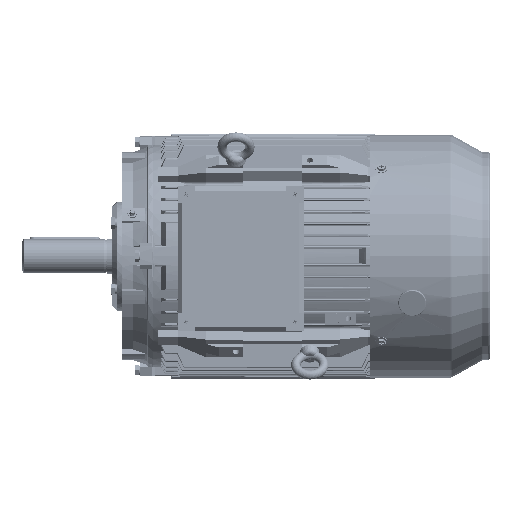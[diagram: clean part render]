
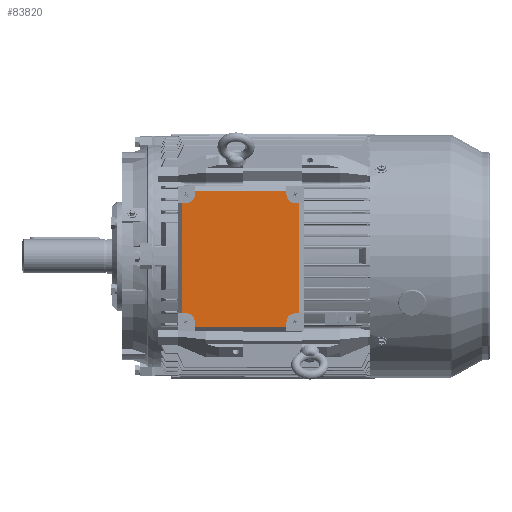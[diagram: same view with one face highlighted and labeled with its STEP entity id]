
A CAD part, top view. The second image highlights one B-rep face of the part: STEP entity #83820.
In plain terms, the highlighted planar face has unit normal (0, 0, 1).
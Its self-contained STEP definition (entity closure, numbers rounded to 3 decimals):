
#83493 = VERTEX_POINT ( 'NONE', #187912 ) ;
#83495 = ORIENTED_EDGE ( 'NONE', *, *, #83637, .F. ) ;
#83575 = EDGE_CURVE ( 'NONE', #83585, #83582, #187960, .T. ) ;
#83577 = VERTEX_POINT ( 'NONE', #188022 ) ;
#83579 = ORIENTED_EDGE ( 'NONE', *, *, #83580, .F. ) ;
#83580 = EDGE_CURVE ( 'NONE', #83577, #83601, #188021, .T. ) ;
#83582 = VERTEX_POINT ( 'NONE', #188017 ) ;
#83583 = EDGE_CURVE ( 'NONE', #83612, #83582, #188016, .T. ) ;
#83585 = VERTEX_POINT ( 'NONE', #188012 ) ;
#83587 = EDGE_CURVE ( 'NONE', #83601, #83585, #188011, .T. ) ;
#83591 = ORIENTED_EDGE ( 'NONE', *, *, #83602, .T. ) ;
#83592 = VERTEX_POINT ( 'NONE', #188006 ) ;
#83593 = ORIENTED_EDGE ( 'NONE', *, *, #83583, .T. ) ;
#83594 = ORIENTED_EDGE ( 'NONE', *, *, #83575, .F. ) ;
#83599 = ORIENTED_EDGE ( 'NONE', *, *, #83587, .F. ) ;
#83601 = VERTEX_POINT ( 'NONE', #188004 ) ;
#83602 = EDGE_CURVE ( 'NONE', #83577, #83592, #188003, .T. ) ;
#83603 = ORIENTED_EDGE ( 'NONE', *, *, #83605, .F. ) ;
#83605 = EDGE_CURVE ( 'NONE', #83612, #83610, #187999, .T. ) ;
#83607 = EDGE_CURVE ( 'NONE', #83610, #83623, #187994, .T. ) ;
#83610 = VERTEX_POINT ( 'NONE', #187748 ) ;
#83612 = VERTEX_POINT ( 'NONE', #187750 ) ;
#83616 = ORIENTED_EDGE ( 'NONE', *, *, #83620, .F. ) ;
#83620 = EDGE_CURVE ( 'NONE', #83623, #83629, #188049, .T. ) ;
#83623 = VERTEX_POINT ( 'NONE', #188045 ) ;
#83626 = ORIENTED_EDGE ( 'NONE', *, *, #83627, .T. ) ;
#83627 = EDGE_CURVE ( 'NONE', #83633, #83629, #188040, .T. ) ;
#83629 = VERTEX_POINT ( 'NONE', #188036 ) ;
#83631 = EDGE_CURVE ( 'NONE', #83633, #83493, #188035, .T. ) ;
#83633 = VERTEX_POINT ( 'NONE', #188031 ) ;
#83634 = ORIENTED_EDGE ( 'NONE', *, *, #83631, .F. ) ;
#83635 = ORIENTED_EDGE ( 'NONE', *, *, #83607, .F. ) ;
#83637 = EDGE_CURVE ( 'NONE', #83493, #83814, #188028, .T. ) ;
#83699 = ORIENTED_EDGE ( 'NONE', *, *, #83701, .F. ) ;
#83701 = EDGE_CURVE ( 'NONE', #83703, #83592, #188092, .T. ) ;
#83703 = VERTEX_POINT ( 'NONE', #188088 ) ;
#83769 = ORIENTED_EDGE ( 'NONE', *, *, #83770, .F. ) ;
#83770 = EDGE_CURVE ( 'NONE', #83823, #83703, #188149, .T. ) ;
#83798 = EDGE_CURVE ( 'NONE', #83801, #83811, #188182, .T. ) ;
#83800 = EDGE_CURVE ( 'NONE', #83801, #83823, #188183, .T. ) ;
#83801 = VERTEX_POINT ( 'NONE', #188242 ) ;
#83803 = ORIENTED_EDGE ( 'NONE', *, *, #83800, .F. ) ;
#83804 = ORIENTED_EDGE ( 'NONE', *, *, #83806, .F. ) ;
#83806 = EDGE_CURVE ( 'NONE', #83814, #83811, #188241, .T. ) ;
#83809 = ORIENTED_EDGE ( 'NONE', *, *, #83798, .T. ) ;
#83811 = VERTEX_POINT ( 'NONE', #188237 ) ;
#83814 = VERTEX_POINT ( 'NONE', #188236 ) ;
#83817 = EDGE_LOOP ( 'NONE', ( #83803, #83809, #83804, #83495, #83634, #83626, #83616, #83635, #83603, #83593, #83594, #83599, #83579, #83591, #83699, #83769 ) ) ;
#83820 = ADVANCED_FACE ( 'NONE', ( #188235 ), #188234, .T. ) ;
#83823 = VERTEX_POINT ( 'NONE', #188225 ) ;
#186953 = DIRECTION ( 'NONE',  ( -1., 0., 0. ) ) ;
#187748 = CARTESIAN_POINT ( 'NONE',  ( -71.5, -70., 12. ) ) ;
#187750 = CARTESIAN_POINT ( 'NONE',  ( -71.5, -75., 12. ) ) ;
#187912 = CARTESIAN_POINT ( 'NONE',  ( -82.5, 59., 12. ) ) ;
#187958 = VECTOR ( 'NONE', #188023, 1000. ) ;
#187959 = CARTESIAN_POINT ( 'NONE',  ( 70.5, -81., 12. ) ) ;
#187960 = LINE ( 'NONE', #187959, #187958 ) ;
#187991 = DIRECTION ( 'NONE',  ( 0., 0., 1. ) ) ;
#187992 = CARTESIAN_POINT ( 'NONE',  ( -82.5, -70., 12. ) ) ;
#187993 = AXIS2_PLACEMENT_3D ( 'NONE', #187992, #187991, #186953 ) ;
#187994 = CIRCLE ( 'NONE', #187993, 11. ) ;
#187996 = DIRECTION ( 'NONE',  ( 0., 1., 0. ) ) ;
#187997 = VECTOR ( 'NONE', #187996, 1000. ) ;
#187998 = CARTESIAN_POINT ( 'NONE',  ( -71.5, -81., 12. ) ) ;
#187999 = LINE ( 'NONE', #187998, #187997 ) ;
#188000 = DIRECTION ( 'NONE',  ( 0., 1., 0. ) ) ;
#188001 = VECTOR ( 'NONE', #188000, 1000. ) ;
#188002 = CARTESIAN_POINT ( 'NONE',  ( 87.5, 59., 12. ) ) ;
#188003 = LINE ( 'NONE', #188002, #188001 ) ;
#188004 = CARTESIAN_POINT ( 'NONE',  ( 81.5, -59., 12. ) ) ;
#188006 = CARTESIAN_POINT ( 'NONE',  ( 87.5, 59., 12. ) ) ;
#188007 = DIRECTION ( 'NONE',  ( 1., 0., 0. ) ) ;
#188008 = DIRECTION ( 'NONE',  ( 0., 0., 1. ) ) ;
#188009 = CARTESIAN_POINT ( 'NONE',  ( 81.5, -70., 12. ) ) ;
#188010 = AXIS2_PLACEMENT_3D ( 'NONE', #188009, #188008, #188007 ) ;
#188011 = CIRCLE ( 'NONE', #188010, 11. ) ;
#188012 = CARTESIAN_POINT ( 'NONE',  ( 70.5, -70., 12. ) ) ;
#188013 = DIRECTION ( 'NONE',  ( 1., 0., 0. ) ) ;
#188014 = VECTOR ( 'NONE', #188013, 1000. ) ;
#188015 = CARTESIAN_POINT ( 'NONE',  ( 70.5, -75., 12. ) ) ;
#188016 = LINE ( 'NONE', #188015, #188014 ) ;
#188017 = CARTESIAN_POINT ( 'NONE',  ( 70.5, -75., 12. ) ) ;
#188018 = DIRECTION ( 'NONE',  ( -1., 0., 0. ) ) ;
#188019 = VECTOR ( 'NONE', #188018, 1000. ) ;
#188020 = CARTESIAN_POINT ( 'NONE',  ( 93.5, -59., 12. ) ) ;
#188021 = LINE ( 'NONE', #188020, #188019 ) ;
#188022 = CARTESIAN_POINT ( 'NONE',  ( 87.5, -59., 12. ) ) ;
#188023 = DIRECTION ( 'NONE',  ( 0., -1., 0. ) ) ;
#188024 = DIRECTION ( 'NONE',  ( 1., 0., 0. ) ) ;
#188025 = DIRECTION ( 'NONE',  ( 0., 0., 1. ) ) ;
#188026 = CARTESIAN_POINT ( 'NONE',  ( -82.5, 70., 12. ) ) ;
#188027 = AXIS2_PLACEMENT_3D ( 'NONE', #188026, #188025, #188024 ) ;
#188028 = CIRCLE ( 'NONE', #188027, 11. ) ;
#188031 = CARTESIAN_POINT ( 'NONE',  ( -87.5, 59., 12. ) ) ;
#188032 = DIRECTION ( 'NONE',  ( 1., 0., 0. ) ) ;
#188033 = VECTOR ( 'NONE', #188032, 1000. ) ;
#188034 = CARTESIAN_POINT ( 'NONE',  ( -93.5, 59., 12. ) ) ;
#188035 = LINE ( 'NONE', #188034, #188033 ) ;
#188036 = CARTESIAN_POINT ( 'NONE',  ( -87.5, -59., 12. ) ) ;
#188037 = DIRECTION ( 'NONE',  ( 0., -1., 0. ) ) ;
#188038 = VECTOR ( 'NONE', #188037, 1000. ) ;
#188039 = CARTESIAN_POINT ( 'NONE',  ( -87.5, -59., 12. ) ) ;
#188040 = LINE ( 'NONE', #188039, #188038 ) ;
#188045 = CARTESIAN_POINT ( 'NONE',  ( -82.5, -59., 12. ) ) ;
#188046 = DIRECTION ( 'NONE',  ( -1., 0., 0. ) ) ;
#188047 = VECTOR ( 'NONE', #188046, 1000. ) ;
#188048 = CARTESIAN_POINT ( 'NONE',  ( -93.5, -59., 12. ) ) ;
#188049 = LINE ( 'NONE', #188048, #188047 ) ;
#188088 = CARTESIAN_POINT ( 'NONE',  ( 81.5, 59., 12. ) ) ;
#188089 = DIRECTION ( 'NONE',  ( 1., 0., 0. ) ) ;
#188090 = VECTOR ( 'NONE', #188089, 1000. ) ;
#188091 = CARTESIAN_POINT ( 'NONE',  ( 93.5, 59., 12. ) ) ;
#188092 = LINE ( 'NONE', #188091, #188090 ) ;
#188149 = CIRCLE ( 'NONE', #188214, 11. ) ;
#188155 = CARTESIAN_POINT ( 'NONE',  ( 81.5, 70., 12. ) ) ;
#188179 = DIRECTION ( 'NONE',  ( -1., 0., 0. ) ) ;
#188180 = VECTOR ( 'NONE', #188179, 1000. ) ;
#188181 = CARTESIAN_POINT ( 'NONE',  ( -71.5, 75., 12. ) ) ;
#188182 = LINE ( 'NONE', #188181, #188180 ) ;
#188183 = LINE ( 'NONE', #188245, #188244 ) ;
#188212 = DIRECTION ( 'NONE',  ( -1., 0., 0. ) ) ;
#188213 = DIRECTION ( 'NONE',  ( 0., 0., 1. ) ) ;
#188214 = AXIS2_PLACEMENT_3D ( 'NONE', #188155, #188213, #188212 ) ;
#188225 = CARTESIAN_POINT ( 'NONE',  ( 70.5, 70., 12. ) ) ;
#188230 = DIRECTION ( 'NONE',  ( 1., 0., 0. ) ) ;
#188231 = DIRECTION ( 'NONE',  ( 0., 0., 1. ) ) ;
#188232 = CARTESIAN_POINT ( 'NONE',  ( -93.5, -81., 12. ) ) ;
#188233 = AXIS2_PLACEMENT_3D ( 'NONE', #188232, #188231, #188230 ) ;
#188234 = PLANE ( 'NONE',  #188233 ) ;
#188235 = FACE_OUTER_BOUND ( 'NONE', #83817, .T. ) ;
#188236 = CARTESIAN_POINT ( 'NONE',  ( -71.5, 70., 12. ) ) ;
#188237 = CARTESIAN_POINT ( 'NONE',  ( -71.5, 75., 12. ) ) ;
#188238 = DIRECTION ( 'NONE',  ( 0., 1., 0. ) ) ;
#188239 = VECTOR ( 'NONE', #188238, 1000. ) ;
#188240 = CARTESIAN_POINT ( 'NONE',  ( -71.5, 81., 12. ) ) ;
#188241 = LINE ( 'NONE', #188240, #188239 ) ;
#188242 = CARTESIAN_POINT ( 'NONE',  ( 70.5, 75., 12. ) ) ;
#188243 = DIRECTION ( 'NONE',  ( 0., -1., 0. ) ) ;
#188244 = VECTOR ( 'NONE', #188243, 1000. ) ;
#188245 = CARTESIAN_POINT ( 'NONE',  ( 70.5, 81., 12. ) ) ;
